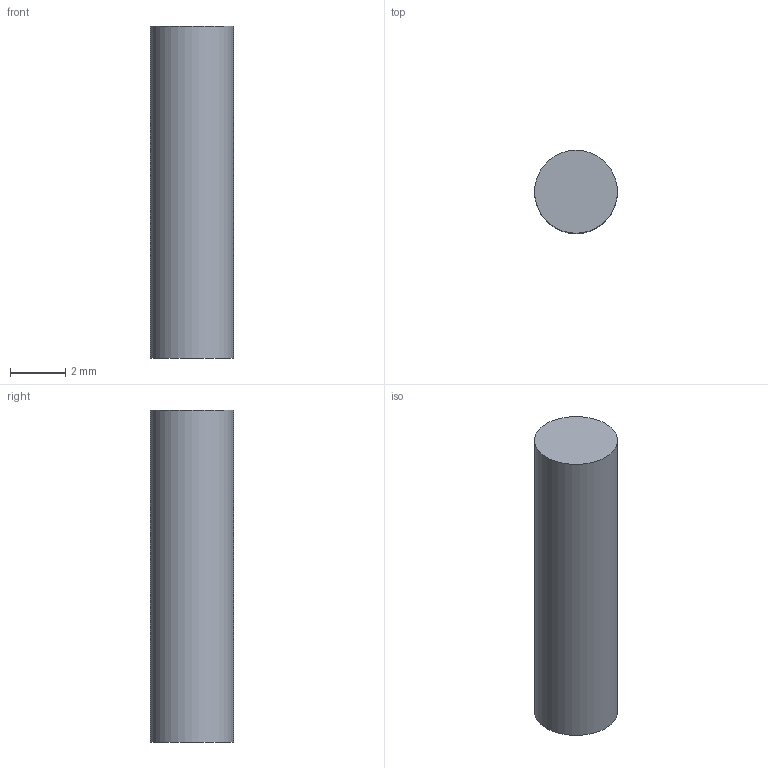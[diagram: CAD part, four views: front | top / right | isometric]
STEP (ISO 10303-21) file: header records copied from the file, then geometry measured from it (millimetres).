
FILE_DESCRIPTION(('Open CASCADE Model'),'2;1');
FILE_NAME('Open CASCADE Shape Model','2026-11-23T18:10:06',('Author'),( 'Open CASCADE'),'Open CASCADE STEP processor 8.0','build123d', 'Unknown');
FILE_SCHEMA(('AUTOMOTIVE_DESIGN { 1 0 10303 214 1 1 1 1 }'));
Length unit declared in the file: millimetre
Products named in the file (2): =>[0:1:1:2]; COMPOUND
Assembly tree (1 placements, depth 2):
  =>[0:1:1:2]
    COMPOUND
Bounding box: 3 x 3 x 12 mm (x, y, z)
Volume: 84.8 mm3; surface area: 127.2 mm2
Topology: 1 solids, 1 shells, 3 faces, 3 edges, 2 vertices
Faces by surface type: plane 2, cylinder 1
Full cylindrical faces by diameter (mm): 3 x1
Entity records: 126 total; most frequent: DIRECTION 21, CARTESIAN_POINT 16, AXIS2_PLACEMENT_3D 7, ORIENTED_EDGE 6, PCURVE 6, DEFINITIONAL_REPRESENTATION 6, LINE 5, VECTOR 5
